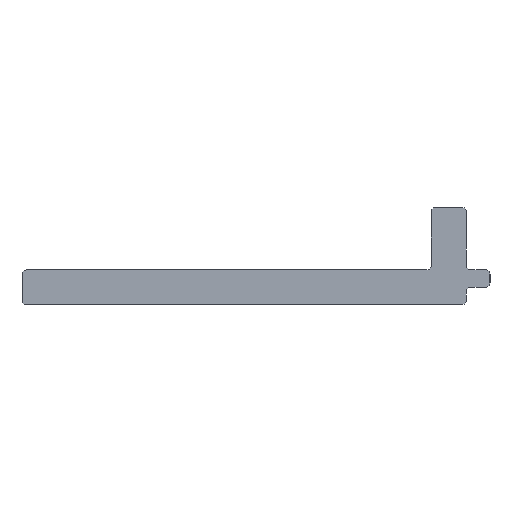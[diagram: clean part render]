
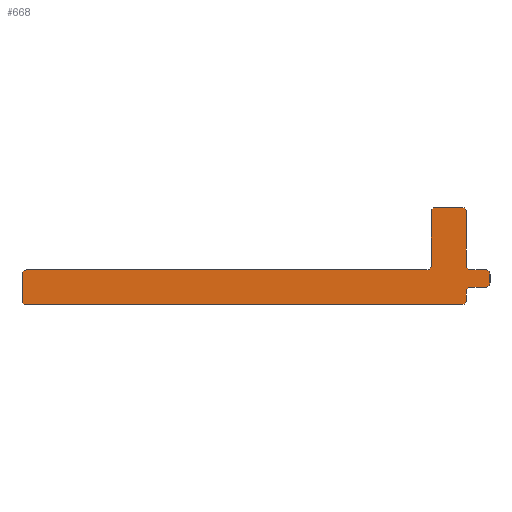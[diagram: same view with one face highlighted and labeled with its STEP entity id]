
A CAD part, left-side view. The second image highlights one B-rep face of the part: STEP entity #668.
In plain terms, the highlighted planar face has unit normal (-1, 0, 0).
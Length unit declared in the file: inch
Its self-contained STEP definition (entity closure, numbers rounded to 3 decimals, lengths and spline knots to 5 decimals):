
#81=CARTESIAN_POINT('',(-48.,0.103,0.315));
#82=DIRECTION('',(1.,0.,0.));
#83=DIRECTION('',(0.,1.,0.));
#84=AXIS2_PLACEMENT_3D('',#81,#82,#83);
#86=DIRECTION('',(0.,-1.,0.));
#87=VECTOR('',#86,0.088);
#88=CARTESIAN_POINT('',(-48.,0.103,0.33));
#89=LINE('',#88,#87);
#90=CARTESIAN_POINT('',(-48.,0.015,0.315));
#91=DIRECTION('',(1.,0.,0.));
#92=DIRECTION('',(0.,0.,1.));
#93=AXIS2_PLACEMENT_3D('',#90,#91,#92);
#95=DIRECTION('',(0.,0.,-1.));
#96=VECTOR('',#95,0.181);
#97=CARTESIAN_POINT('',(-48.,0.,0.315));
#98=LINE('',#97,#96);
#99=CARTESIAN_POINT('',(-48.,-0.015,0.134));
#100=DIRECTION('',(-1.,0.,0.));
#101=DIRECTION('',(0.,1.,0.));
#102=AXIS2_PLACEMENT_3D('',#99,#100,#101);
#104=DIRECTION('',(0.,-1.,0.));
#105=VECTOR('',#104,0.05);
#106=CARTESIAN_POINT('',(-48.,-0.015,0.119));
#107=LINE('',#106,#105);
#108=CARTESIAN_POINT('',(-48.,-0.065,0.104));
#109=DIRECTION('',(1.,0.,0.));
#110=DIRECTION('',(0.,0.,1.));
#111=AXIS2_PLACEMENT_3D('',#108,#109,#110);
#113=DIRECTION('',(0.,0.,-1.));
#114=VECTOR('',#113,0.03);
#115=CARTESIAN_POINT('',(-48.,-0.08,0.104));
#116=LINE('',#115,#114);
#117=CARTESIAN_POINT('',(-48.,-0.065,0.074));
#118=DIRECTION('',(1.,0.,0.));
#119=DIRECTION('',(0.,-1.,0.));
#120=AXIS2_PLACEMENT_3D('',#117,#118,#119);
#122=DIRECTION('',(0.,1.,0.));
#123=VECTOR('',#122,0.05);
#124=CARTESIAN_POINT('',(-48.,-0.065,0.059));
#125=LINE('',#124,#123);
#126=CARTESIAN_POINT('',(-48.,-0.015,0.044));
#127=DIRECTION('',(-1.,0.,0.));
#128=DIRECTION('',(0.,0.,1.));
#129=AXIS2_PLACEMENT_3D('',#126,#127,#128);
#131=DIRECTION('',(0.,0.,-1.));
#132=VECTOR('',#131,0.029);
#133=CARTESIAN_POINT('',(-48.,0.,0.044));
#134=LINE('',#133,#132);
#135=CARTESIAN_POINT('',(-48.,0.015,0.015));
#136=DIRECTION('',(1.,0.,0.));
#137=DIRECTION('',(0.,-1.,0.));
#138=AXIS2_PLACEMENT_3D('',#135,#136,#137);
#140=DIRECTION('',(0.,1.,0.));
#141=VECTOR('',#140,1.47);
#142=CARTESIAN_POINT('',(-48.,0.015,0.));
#143=LINE('',#142,#141);
#144=CARTESIAN_POINT('',(-48.,1.485,0.015));
#145=DIRECTION('',(1.,0.,0.));
#146=DIRECTION('',(0.,0.,-1.));
#147=AXIS2_PLACEMENT_3D('',#144,#145,#146);
#149=DIRECTION('',(0.,0.,1.));
#150=VECTOR('',#149,0.088);
#151=CARTESIAN_POINT('',(-48.,1.5,0.015));
#152=LINE('',#151,#150);
#153=CARTESIAN_POINT('',(-48.,1.485,0.103));
#154=DIRECTION('',(1.,0.,0.));
#155=DIRECTION('',(0.,1.,0.));
#156=AXIS2_PLACEMENT_3D('',#153,#154,#155);
#158=DIRECTION('',(0.,-1.,0.));
#159=VECTOR('',#158,1.352);
#160=CARTESIAN_POINT('',(-48.,1.485,0.118));
#161=LINE('',#160,#159);
#162=CARTESIAN_POINT('',(-48.,0.133,0.133));
#163=DIRECTION('',(-1.,0.,0.));
#164=DIRECTION('',(0.,0.,-1.));
#165=AXIS2_PLACEMENT_3D('',#162,#163,#164);
#167=DIRECTION('',(0.,0.,1.));
#168=VECTOR('',#167,0.182);
#169=CARTESIAN_POINT('',(-48.,0.118,0.133));
#170=LINE('',#169,#168);
#261=CARTESIAN_POINT('',(-48.,0.118,0.315));
#262=CARTESIAN_POINT('',(-48.,0.103,0.33));
#263=VERTEX_POINT('',#261);
#264=VERTEX_POINT('',#262);
#265=CARTESIAN_POINT('',(-48.,0.015,0.33));
#266=VERTEX_POINT('',#265);
#267=CARTESIAN_POINT('',(-48.,0.,0.315));
#268=VERTEX_POINT('',#267);
#269=CARTESIAN_POINT('',(-48.,0.,0.134));
#270=VERTEX_POINT('',#269);
#271=CARTESIAN_POINT('',(-48.,-0.015,0.119));
#272=VERTEX_POINT('',#271);
#273=CARTESIAN_POINT('',(-48.,-0.065,0.119));
#274=VERTEX_POINT('',#273);
#275=CARTESIAN_POINT('',(-48.,-0.08,0.104));
#276=VERTEX_POINT('',#275);
#277=CARTESIAN_POINT('',(-48.,-0.08,0.074));
#278=VERTEX_POINT('',#277);
#279=CARTESIAN_POINT('',(-48.,-0.065,0.059));
#280=VERTEX_POINT('',#279);
#281=CARTESIAN_POINT('',(-48.,-0.015,0.059));
#282=VERTEX_POINT('',#281);
#283=CARTESIAN_POINT('',(-48.,0.,0.044));
#284=VERTEX_POINT('',#283);
#285=CARTESIAN_POINT('',(-48.,0.,0.015));
#286=VERTEX_POINT('',#285);
#287=CARTESIAN_POINT('',(-48.,0.015,0.));
#288=VERTEX_POINT('',#287);
#289=CARTESIAN_POINT('',(-48.,1.485,0.));
#290=VERTEX_POINT('',#289);
#291=CARTESIAN_POINT('',(-48.,1.5,0.015));
#292=VERTEX_POINT('',#291);
#293=CARTESIAN_POINT('',(-48.,1.5,0.103));
#294=VERTEX_POINT('',#293);
#295=CARTESIAN_POINT('',(-48.,1.485,0.118));
#296=VERTEX_POINT('',#295);
#297=CARTESIAN_POINT('',(-48.,0.133,0.118));
#298=VERTEX_POINT('',#297);
#299=CARTESIAN_POINT('',(-48.,0.118,0.133));
#300=VERTEX_POINT('',#299);
#641=CARTESIAN_POINT('',(-48.,0.,0.));
#642=DIRECTION('',(1.,0.,0.));
#643=DIRECTION('',(0.,-1.,0.));
#644=AXIS2_PLACEMENT_3D('',#641,#642,#643);
#645=PLANE('',#644);
#646=ORIENTED_EDGE('',*,*,#364,.T.);
#647=ORIENTED_EDGE('',*,*,#379,.T.);
#648=ORIENTED_EDGE('',*,*,#394,.T.);
#649=ORIENTED_EDGE('',*,*,#409,.T.);
#650=ORIENTED_EDGE('',*,*,#424,.T.);
#651=ORIENTED_EDGE('',*,*,#439,.T.);
#652=ORIENTED_EDGE('',*,*,#454,.T.);
#653=ORIENTED_EDGE('',*,*,#469,.T.);
#654=ORIENTED_EDGE('',*,*,#484,.T.);
#655=ORIENTED_EDGE('',*,*,#499,.T.);
#656=ORIENTED_EDGE('',*,*,#514,.T.);
#657=ORIENTED_EDGE('',*,*,#529,.T.);
#658=ORIENTED_EDGE('',*,*,#544,.T.);
#659=ORIENTED_EDGE('',*,*,#559,.T.);
#660=ORIENTED_EDGE('',*,*,#574,.T.);
#661=ORIENTED_EDGE('',*,*,#589,.T.);
#662=ORIENTED_EDGE('',*,*,#604,.T.);
#663=ORIENTED_EDGE('',*,*,#619,.T.);
#664=ORIENTED_EDGE('',*,*,#633,.T.);
#665=ORIENTED_EDGE('',*,*,#348,.T.);
#666=EDGE_LOOP('',(#646,#647,#648,#649,#650,#651,#652,#653,#654,#655,#656,#657,
#658,#659,#660,#661,#662,#663,#664,#665));
#667=FACE_OUTER_BOUND('',#666,.F.);
#85=CIRCLE('',#84,0.015);
#94=CIRCLE('',#93,0.015);
#103=CIRCLE('',#102,0.015);
#112=CIRCLE('',#111,0.015);
#121=CIRCLE('',#120,0.015);
#130=CIRCLE('',#129,0.015);
#139=CIRCLE('',#138,0.015);
#148=CIRCLE('',#147,0.015);
#157=CIRCLE('',#156,0.015);
#166=CIRCLE('',#165,0.015);
#348=EDGE_CURVE('',#300,#263,#170,.T.);
#364=EDGE_CURVE('',#263,#264,#85,.T.);
#379=EDGE_CURVE('',#264,#266,#89,.T.);
#394=EDGE_CURVE('',#266,#268,#94,.T.);
#409=EDGE_CURVE('',#268,#270,#98,.T.);
#424=EDGE_CURVE('',#270,#272,#103,.T.);
#439=EDGE_CURVE('',#272,#274,#107,.T.);
#454=EDGE_CURVE('',#274,#276,#112,.T.);
#469=EDGE_CURVE('',#276,#278,#116,.T.);
#484=EDGE_CURVE('',#278,#280,#121,.T.);
#499=EDGE_CURVE('',#280,#282,#125,.T.);
#514=EDGE_CURVE('',#282,#284,#130,.T.);
#529=EDGE_CURVE('',#284,#286,#134,.T.);
#544=EDGE_CURVE('',#286,#288,#139,.T.);
#559=EDGE_CURVE('',#288,#290,#143,.T.);
#574=EDGE_CURVE('',#290,#292,#148,.T.);
#589=EDGE_CURVE('',#292,#294,#152,.T.);
#604=EDGE_CURVE('',#294,#296,#157,.T.);
#619=EDGE_CURVE('',#296,#298,#161,.T.);
#633=EDGE_CURVE('',#298,#300,#166,.T.);
#668=ADVANCED_FACE('',(#667),#645,.F.);
